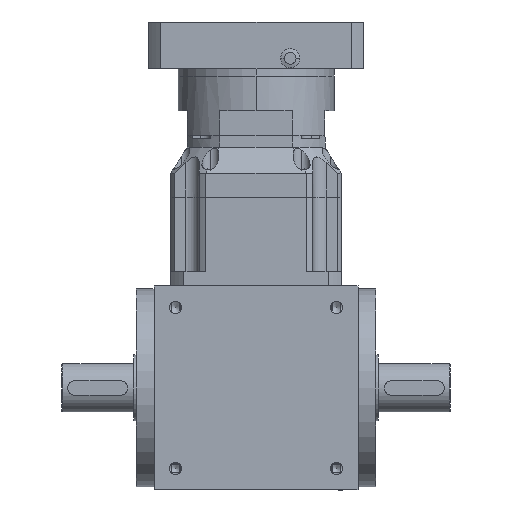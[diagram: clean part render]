
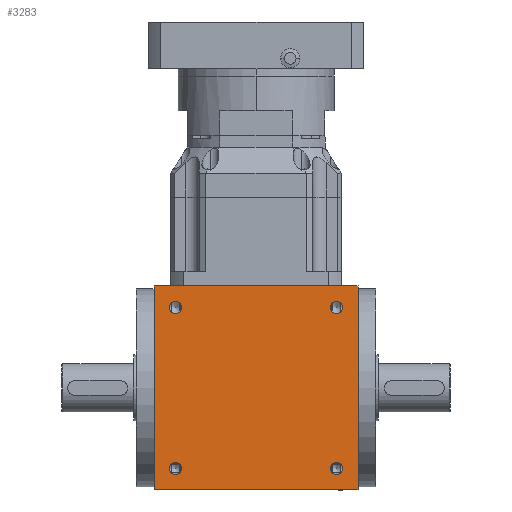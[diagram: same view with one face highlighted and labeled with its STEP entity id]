
A CAD part, left-side view. The second image highlights one B-rep face of the part: STEP entity #3283.
In plain terms, the highlighted planar face has unit normal (-1, 0, 0).
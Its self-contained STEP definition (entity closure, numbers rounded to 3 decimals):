
#1166=LINE('',#17914,#1903);
#1168=LINE('',#17922,#1905);
#1170=LINE('',#17934,#1907);
#1171=LINE('',#17936,#1908);
#1903=VECTOR('',#13836,1.);
#1905=VECTOR('',#13844,1.);
#1907=VECTOR('',#13856,1.);
#1908=VECTOR('',#13857,1.);
#2635=PLANE('',#12254);
#3283=ADVANCED_FACE('',(#4129,#4130,#4131,#4132,#4133),#2635,.T.);
#4129=FACE_BOUND('',#4461,.T.);
#4130=FACE_BOUND('',#4462,.T.);
#4131=FACE_BOUND('',#4463,.T.);
#4132=FACE_BOUND('',#4464,.T.);
#4133=FACE_BOUND('',#4465,.T.);
#4461=EDGE_LOOP('',(#5478));
#4462=EDGE_LOOP('',(#5479));
#4463=EDGE_LOOP('',(#5480));
#4464=EDGE_LOOP('',(#5481));
#4465=EDGE_LOOP('',(#5482,#5483,#5484,#5485));
#5478=ORIENTED_EDGE('',*,*,#9948,.T.);
#5479=ORIENTED_EDGE('',*,*,#9949,.T.);
#5480=ORIENTED_EDGE('',*,*,#9950,.T.);
#5481=ORIENTED_EDGE('',*,*,#9951,.T.);
#5482=ORIENTED_EDGE('',*,*,#9946,.T.);
#5483=ORIENTED_EDGE('',*,*,#9942,.T.);
#5484=ORIENTED_EDGE('',*,*,#9952,.F.);
#5485=ORIENTED_EDGE('',*,*,#9953,.T.);
#8828=VERTEX_POINT('',#17909);
#8830=VERTEX_POINT('',#17913);
#8834=VERTEX_POINT('',#17923);
#8835=VERTEX_POINT('',#17927);
#8836=VERTEX_POINT('',#17929);
#8837=VERTEX_POINT('',#17931);
#8838=VERTEX_POINT('',#17933);
#8839=VERTEX_POINT('',#17935);
#9942=EDGE_CURVE('',#8828,#8830,#1166,.T.);
#9946=EDGE_CURVE('',#8834,#8828,#1168,.T.);
#9948=EDGE_CURVE('',#8835,#8835,#11535,.T.);
#9949=EDGE_CURVE('',#8836,#8836,#11536,.T.);
#9950=EDGE_CURVE('',#8837,#8837,#11537,.T.);
#9951=EDGE_CURVE('',#8838,#8838,#11538,.T.);
#9952=EDGE_CURVE('',#8839,#8830,#1170,.T.);
#9953=EDGE_CURVE('',#8839,#8834,#1171,.T.);
#11535=CIRCLE('',#12250,5.15);
#11536=CIRCLE('',#12251,5.15);
#11537=CIRCLE('',#12252,5.15);
#11538=CIRCLE('',#12253,5.15);
#12250=AXIS2_PLACEMENT_3D('',#17926,#13848,#13849);
#12251=AXIS2_PLACEMENT_3D('',#17928,#13850,#13851);
#12252=AXIS2_PLACEMENT_3D('',#17930,#13852,#13853);
#12253=AXIS2_PLACEMENT_3D('',#17932,#13854,#13855);
#12254=AXIS2_PLACEMENT_3D('',#17937,#13858,#13859);
#13836=DIRECTION('',(0.,1.,0.));
#13844=DIRECTION('',(0.,0.,1.));
#13848=DIRECTION('',(1.,0.,0.));
#13849=DIRECTION('',(0.,0.,-1.));
#13850=DIRECTION('',(1.,0.,0.));
#13851=DIRECTION('',(0.,0.,-1.));
#13852=DIRECTION('',(1.,0.,0.));
#13853=DIRECTION('',(0.,0.,-1.));
#13854=DIRECTION('',(1.,0.,0.));
#13855=DIRECTION('',(0.,0.,-1.));
#13856=DIRECTION('',(0.,0.,1.));
#13857=DIRECTION('',(0.,-1.,0.));
#13858=DIRECTION('',(-1.,0.,0.));
#13859=DIRECTION('',(0.,0.,1.));
#17909=CARTESIAN_POINT('',(0.,0.,170.));
#17913=CARTESIAN_POINT('',(0.,170.,170.));
#17914=CARTESIAN_POINT('',(0.,85.,170.));
#17922=CARTESIAN_POINT('',(0.,0.,0.));
#17923=CARTESIAN_POINT('',(0.,0.,0.));
#17926=CARTESIAN_POINT('',(0.,18.,152.));
#17927=CARTESIAN_POINT('',(0.,18.,146.85));
#17928=CARTESIAN_POINT('',(0.,18.,18.));
#17929=CARTESIAN_POINT('',(0.,18.,12.85));
#17930=CARTESIAN_POINT('',(0.,152.,152.));
#17931=CARTESIAN_POINT('',(0.,152.,146.85));
#17932=CARTESIAN_POINT('',(0.,152.,18.));
#17933=CARTESIAN_POINT('',(0.,152.,12.85));
#17934=CARTESIAN_POINT('',(0.,170.,0.));
#17935=CARTESIAN_POINT('',(0.,170.,0.));
#17936=CARTESIAN_POINT('',(0.,85.,0.));
#17937=CARTESIAN_POINT('',(0.,85.,0.));
